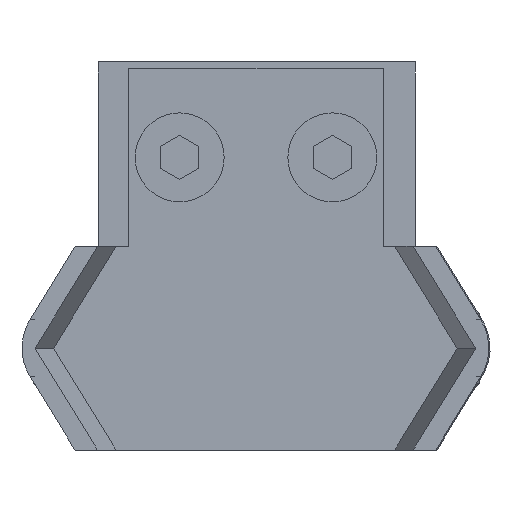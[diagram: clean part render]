
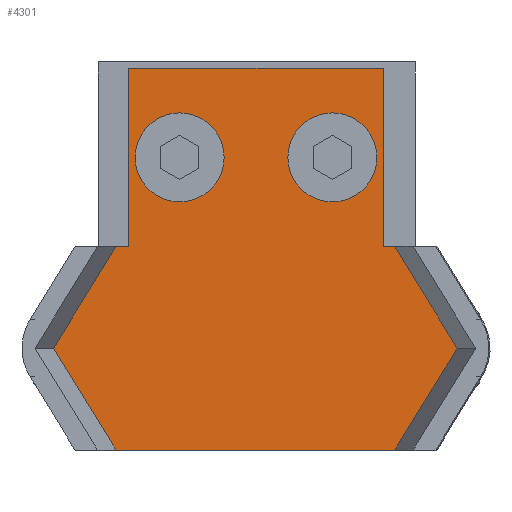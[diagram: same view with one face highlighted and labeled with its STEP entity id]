
A CAD part, left-side view. The second image highlights one B-rep face of the part: STEP entity #4301.
In plain terms, the highlighted planar face has unit normal (-1, 0, 0).
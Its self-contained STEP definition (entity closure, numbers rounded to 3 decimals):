
#15 = CARTESIAN_POINT ( 'NONE',  ( 4., 0., 0. ) ) ;
#64 = CARTESIAN_POINT ( 'NONE',  ( 4., -8., 15.814 ) ) ;
#67 = EDGE_CURVE ( 'NONE', #7467, #1495, #7335, .T. ) ;
#90 = DIRECTION ( 'NONE',  ( 0., 0., -1. ) ) ;
#132 = VECTOR ( 'NONE', #7182, 1000. ) ;
#136 = CARTESIAN_POINT ( 'NONE',  ( 4., 0., 10.899 ) ) ;
#138 = ORIENTED_EDGE ( 'NONE', *, *, #1635, .T. ) ;
#146 = DIRECTION ( 'NONE',  ( 0., 0., -1. ) ) ;
#153 = LINE ( 'NONE', #745, #3214 ) ;
#574 = VERTEX_POINT ( 'NONE', #4681 ) ;
#745 = CARTESIAN_POINT ( 'NONE',  ( 4., 0., 0. ) ) ;
#978 = AXIS2_PLACEMENT_3D ( 'NONE', #3060, #1842, #90 ) ;
#1047 = CARTESIAN_POINT ( 'NONE',  ( 4., 0., -10. ) ) ;
#1182 = CARTESIAN_POINT ( 'NONE',  ( 4., -16., 20. ) ) ;
#1350 = EDGE_CURVE ( 'NONE', #1412, #3819, #2044, .T. ) ;
#1412 = VERTEX_POINT ( 'NONE', #7286 ) ;
#1453 = LINE ( 'NONE', #3805, #5156 ) ;
#1495 = VERTEX_POINT ( 'NONE', #1896 ) ;
#1635 = EDGE_CURVE ( 'NONE', #4305, #3741, #7520, .T. ) ;
#1691 = CIRCLE ( 'NONE', #3990, 3.5 ) ;
#1737 = DIRECTION ( 'NONE',  ( 0., 0., -1. ) ) ;
#1808 = AXIS2_PLACEMENT_3D ( 'NONE', #3829, #5086, #2595 ) ;
#1842 = DIRECTION ( 'NONE',  ( -1., 0., 0. ) ) ;
#1896 = CARTESIAN_POINT ( 'NONE',  ( 4., -16., 10.899 ) ) ;
#2044 = CIRCLE ( 'NONE', #2344, 3.5 ) ;
#2089 = VECTOR ( 'NONE', #3852, 1000. ) ;
#2096 = EDGE_CURVE ( 'NONE', #5238, #6911, #1453, .T. ) ;
#2253 = ORIENTED_EDGE ( 'NONE', *, *, #4134, .T. ) ;
#2265 = AXIS2_PLACEMENT_3D ( 'NONE', #15, #6772, #4955 ) ;
#2290 = CARTESIAN_POINT ( 'NONE',  ( 4., -16., -10.999 ) ) ;
#2344 = AXIS2_PLACEMENT_3D ( 'NONE', #7202, #4198, #1737 ) ;
#2347 = VERTEX_POINT ( 'NONE', #6816 ) ;
#2408 = VERTEX_POINT ( 'NONE', #136 ) ;
#2439 = VECTOR ( 'NONE', #5493, 1000. ) ;
#2476 = PLANE ( 'NONE',  #2265 ) ;
#2566 = LINE ( 'NONE', #4459, #2089 ) ;
#2595 = DIRECTION ( 'NONE',  ( 0., 0., -1. ) ) ;
#2597 = VECTOR ( 'NONE', #6834, 1000. ) ;
#2696 = VERTEX_POINT ( 'NONE', #7533 ) ;
#2716 = LINE ( 'NONE', #1047, #4359 ) ;
#2908 = VERTEX_POINT ( 'NONE', #3582 ) ;
#2913 = LINE ( 'NONE', #4413, #5989 ) ;
#2968 = DIRECTION ( 'NONE',  ( 0., 0., -1. ) ) ;
#3060 = CARTESIAN_POINT ( 'NONE',  ( 4., 7., 6. ) ) ;
#3214 = VECTOR ( 'NONE', #6901, 1000. ) ;
#3272 = EDGE_CURVE ( 'NONE', #6911, #574, #153, .T. ) ;
#3467 = ORIENTED_EDGE ( 'NONE', *, *, #1350, .F. ) ;
#3566 = CARTESIAN_POINT ( 'NONE',  ( 4., -8., 15.814 ) ) ;
#3582 = CARTESIAN_POINT ( 'NONE',  ( 4., 7., 2.5 ) ) ;
#3621 = EDGE_CURVE ( 'NONE', #2408, #7467, #2913, .T. ) ;
#3627 = FACE_OUTER_BOUND ( 'NONE', #7442, .T. ) ;
#3659 = CARTESIAN_POINT ( 'NONE',  ( 4., -8., -15.914 ) ) ;
#3741 = VERTEX_POINT ( 'NONE', #3874 ) ;
#3805 = CARTESIAN_POINT ( 'NONE',  ( 4., -8., -15.914 ) ) ;
#3819 = VERTEX_POINT ( 'NONE', #6920 ) ;
#3829 = CARTESIAN_POINT ( 'NONE',  ( 4., 7., 6. ) ) ;
#3834 = CARTESIAN_POINT ( 'NONE',  ( 4., 14., -10. ) ) ;
#3852 = DIRECTION ( 'NONE',  ( 0., 0., -1. ) ) ;
#3874 = CARTESIAN_POINT ( 'NONE',  ( 4., 14., 10. ) ) ;
#3990 = AXIS2_PLACEMENT_3D ( 'NONE', #5850, #4635, #2968 ) ;
#4022 = CIRCLE ( 'NONE', #1808, 3.5 ) ;
#4134 = EDGE_CURVE ( 'NONE', #2696, #574, #2716, .T. ) ;
#4156 = VECTOR ( 'NONE', #6594, 1000. ) ;
#4198 = DIRECTION ( 'NONE',  ( -1., 0., 0. ) ) ;
#4301 = ADVANCED_FACE ( 'NONE', ( #3627, #4977, #6407 ), #2476, .F. ) ;
#4305 = VERTEX_POINT ( 'NONE', #7397 ) ;
#4359 = VECTOR ( 'NONE', #7719, 1000. ) ;
#4399 = ORIENTED_EDGE ( 'NONE', *, *, #6540, .F. ) ;
#4404 = CIRCLE ( 'NONE', #978, 3.5 ) ;
#4413 = CARTESIAN_POINT ( 'NONE',  ( 4., 0., 10.899 ) ) ;
#4417 = DIRECTION ( 'NONE',  ( 0., 0.852, 0.523 ) ) ;
#4439 = ORIENTED_EDGE ( 'NONE', *, *, #6687, .T. ) ;
#4459 = CARTESIAN_POINT ( 'NONE',  ( 4., 0., 10. ) ) ;
#4471 = VERTEX_POINT ( 'NONE', #5738 ) ;
#4481 = ORIENTED_EDGE ( 'NONE', *, *, #2096, .F. ) ;
#4535 = EDGE_LOOP ( 'NONE', ( #6961, #7755 ) ) ;
#4635 = DIRECTION ( 'NONE',  ( -1., 0., 0. ) ) ;
#4681 = CARTESIAN_POINT ( 'NONE',  ( 4., 0., -10. ) ) ;
#4955 = DIRECTION ( 'NONE',  ( 0., 0., -1. ) ) ;
#4977 = FACE_BOUND ( 'NONE', #6623, .T. ) ;
#5086 = DIRECTION ( 'NONE',  ( -1., 0., 0. ) ) ;
#5156 = VECTOR ( 'NONE', #4417, 1000. ) ;
#5160 = EDGE_CURVE ( 'NONE', #2347, #2908, #4404, .T. ) ;
#5238 = VERTEX_POINT ( 'NONE', #3659 ) ;
#5239 = ORIENTED_EDGE ( 'NONE', *, *, #67, .F. ) ;
#5274 = EDGE_CURVE ( 'NONE', #2408, #4305, #2566, .T. ) ;
#5307 = ORIENTED_EDGE ( 'NONE', *, *, #5274, .T. ) ;
#5311 = EDGE_CURVE ( 'NONE', #2908, #2347, #4022, .T. ) ;
#5493 = DIRECTION ( 'NONE',  ( 0., -0.852, -0.523 ) ) ;
#5738 = CARTESIAN_POINT ( 'NONE',  ( 4., -16., -10.999 ) ) ;
#5784 = EDGE_CURVE ( 'NONE', #3819, #1412, #1691, .T. ) ;
#5850 = CARTESIAN_POINT ( 'NONE',  ( 4., 7., -6. ) ) ;
#5989 = VECTOR ( 'NONE', #6796, 1000. ) ;
#6294 = ORIENTED_EDGE ( 'NONE', *, *, #3621, .F. ) ;
#6368 = CARTESIAN_POINT ( 'NONE',  ( 4., 0., -10.999 ) ) ;
#6407 = FACE_BOUND ( 'NONE', #4535, .T. ) ;
#6540 = EDGE_CURVE ( 'NONE', #4471, #5238, #6735, .T. ) ;
#6594 = DIRECTION ( 'NONE',  ( 0., 0.852, -0.523 ) ) ;
#6615 = CARTESIAN_POINT ( 'NONE',  ( 4., 14., 10. ) ) ;
#6623 = EDGE_LOOP ( 'NONE', ( #3467, #7292 ) ) ;
#6687 = EDGE_CURVE ( 'NONE', #4471, #1495, #7315, .T. ) ;
#6735 = LINE ( 'NONE', #2290, #4156 ) ;
#6772 = DIRECTION ( 'NONE',  ( 1., 0., 0. ) ) ;
#6796 = DIRECTION ( 'NONE',  ( 0., -0.852, 0.523 ) ) ;
#6809 = ORIENTED_EDGE ( 'NONE', *, *, #7531, .T. ) ;
#6816 = CARTESIAN_POINT ( 'NONE',  ( 4., 7., 9.5 ) ) ;
#6834 = DIRECTION ( 'NONE',  ( 0., 0., 1. ) ) ;
#6901 = DIRECTION ( 'NONE',  ( 0., 0., 1. ) ) ;
#6911 = VERTEX_POINT ( 'NONE', #6368 ) ;
#6920 = CARTESIAN_POINT ( 'NONE',  ( 4., 7., -2.5 ) ) ;
#6961 = ORIENTED_EDGE ( 'NONE', *, *, #5311, .F. ) ;
#6987 = ORIENTED_EDGE ( 'NONE', *, *, #3272, .F. ) ;
#7182 = DIRECTION ( 'NONE',  ( 0., 1., 0. ) ) ;
#7202 = CARTESIAN_POINT ( 'NONE',  ( 4., 7., -6. ) ) ;
#7286 = CARTESIAN_POINT ( 'NONE',  ( 4., 7., -9.5 ) ) ;
#7292 = ORIENTED_EDGE ( 'NONE', *, *, #5784, .F. ) ;
#7315 = LINE ( 'NONE', #1182, #2597 ) ;
#7335 = LINE ( 'NONE', #3566, #2439 ) ;
#7397 = CARTESIAN_POINT ( 'NONE',  ( 4., 0., 10. ) ) ;
#7400 = VECTOR ( 'NONE', #146, 1000. ) ;
#7442 = EDGE_LOOP ( 'NONE', ( #6294, #5307, #138, #6809, #2253, #6987, #4481, #4399, #4439, #5239 ) ) ;
#7467 = VERTEX_POINT ( 'NONE', #64 ) ;
#7520 = LINE ( 'NONE', #6615, #132 ) ;
#7531 = EDGE_CURVE ( 'NONE', #3741, #2696, #7778, .T. ) ;
#7533 = CARTESIAN_POINT ( 'NONE',  ( 4., 14., -10. ) ) ;
#7719 = DIRECTION ( 'NONE',  ( 0., -1., 0. ) ) ;
#7755 = ORIENTED_EDGE ( 'NONE', *, *, #5160, .F. ) ;
#7778 = LINE ( 'NONE', #3834, #7400 ) ;
